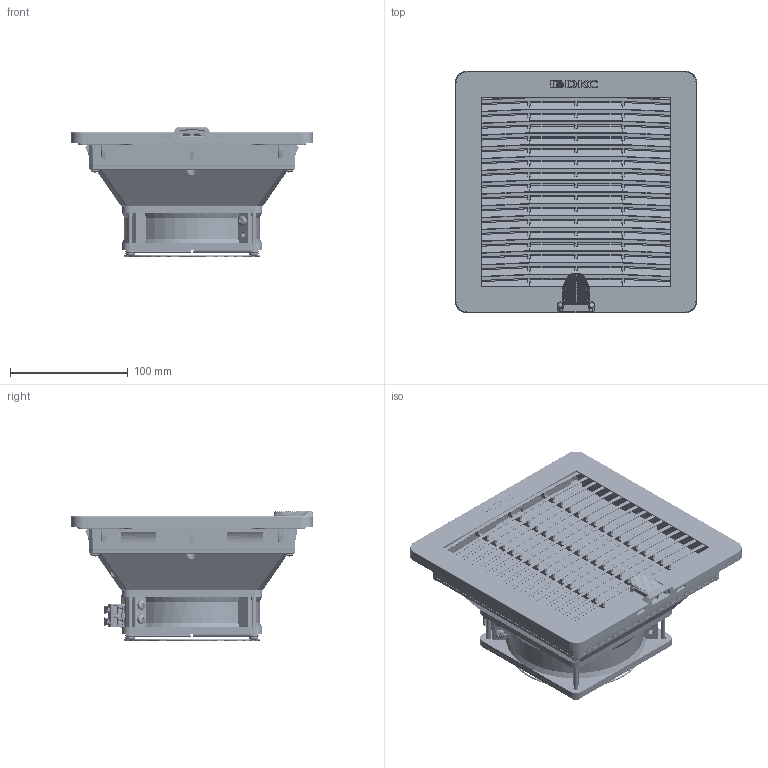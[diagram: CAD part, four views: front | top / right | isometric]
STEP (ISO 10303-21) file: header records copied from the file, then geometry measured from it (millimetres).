
FILE_DESCRIPTION (( 'STEP AP203' ), '1' );
FILE_NAME ('TPA.08.0019.00.00.0捘.STEP', '2022-06-30T12:07:46', ( '' ), ( '' ), 'SwSTEP 2.0', 'SolidWorks 2020', '' );
FILE_SCHEMA (( 'CONFIG_CONTROL_DESIGN' ));
Length unit declared in the file: millimetre
Products named in the file (17): TPA.08.0019.00.00.0捘; TPA.08.0015.03.00.0_168x168; M4x6 DIN 7985 PH cl.4,8 Zinc_straight; TPA.08.0017.03.00.1_á ¯à®à¥§ï¬¨; TPA.08.0015.01.01.0; TPA.08.0019.03.00.0; RKF13 - GASKET_æ¥« ï; 4 DIN 6798 Zinc; TPA.08.0019.01.02.0; Âåíòèëÿòîð  SUNON DP200A-2123XBL-GN; M4õ47 7109000126 Zinc_straigh; TPA.08.0019.02.00.0_¤«ï á¡®àª¨; Êîëîäêà LK 980 RZ2; R5KF13 - BASE REV.4; 3,5x13 DIN 7981 C PZ Zinc_straight; TPA.08.0015.01.03.0; Ðåøåòêà âåíòèëÿòîðà SUNON LP2212
Assembly tree (24 placements, depth 3):
  TPA.08.0019.00.00.0捘
    TPA.08.0019.02.00.0_¤«ï á¡®àª¨
      R5KF13 - BASE REV.4
      RKF13 - GASKET_æ¥« ï
    TPA.08.0019.01.02.0
    Âåíòèëÿòîð  SUNON DP200A-2123XBL-GN
    TPA.08.0015.01.01.0
    TPA.08.0015.01.03.0
    TPA.08.0019.03.00.0
    TPA.08.0015.03.00.0_168x168
    3,5x13 DIN 7981 C PZ Zinc_straight  x4
    Ðåøåòêà âåíòèëÿòîðà SUNON LP2212
    M4õ47 7109000126 Zinc_straigh  x4
    TPA.08.0017.03.00.1_á ¯à®à¥§ï¬¨
    M4x6 DIN 7985 PH cl.4,8 Zinc_straight  x3
    4 DIN 6798 Zinc
    Êîëîäêà LK 980 RZ2
Bounding box: 205 x 205 x 110.09 mm (x, y, z)
Volume: 867500.3 mm3; surface area: 493885.2 mm2
Topology: 40 solids, 48 shells, 7127 faces, 19218 edges, 12110 vertices
Faces by surface type: plane 3194, cylinder 2220, bspline 867, cone 417, torus 378, sphere 51
Entity records: 288028 total; most frequent: CARTESIAN_POINT 132052, ORIENTED_EDGE 36936, DIRECTION 24581, EDGE_CURVE 18468, VERTEX_POINT 11688, AXIS2_PLACEMENT_3D 8269, VECTOR 8043, LINE 8043
